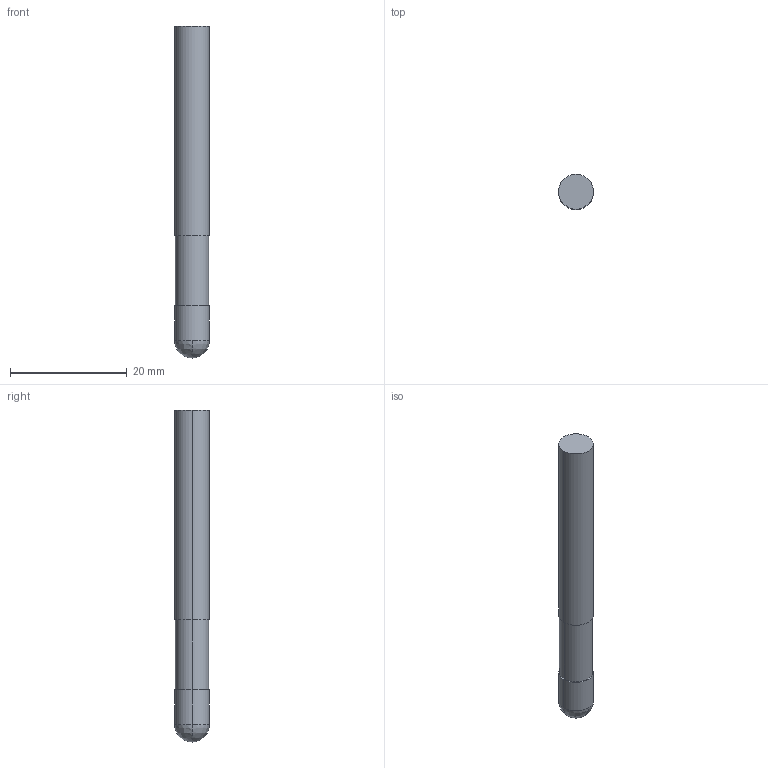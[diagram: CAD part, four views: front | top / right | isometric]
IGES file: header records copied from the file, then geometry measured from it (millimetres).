
Start section: 3D InterOp IGES (v. 2020 1.0.1), Spatial Corp. Copyright (c) 1999-2017.
Global section: file name: WZF18516_6.igs; native system: Spatial Corp.; preprocessor: 3D InterOp GENERIC/IGES 3.0; author: Noname; organization: Noname; date: 20201007.093014; units: metre
Bounding box: 6 x 6 x 56.99 mm (x, y, z)
Surface area: 1096.7 mm2 (no closed solid volume)
Topology: 0 solids, 0 shells, 13 faces, 52 edges, 48 vertices
Faces by surface type: revolution 10, extrusion 3
